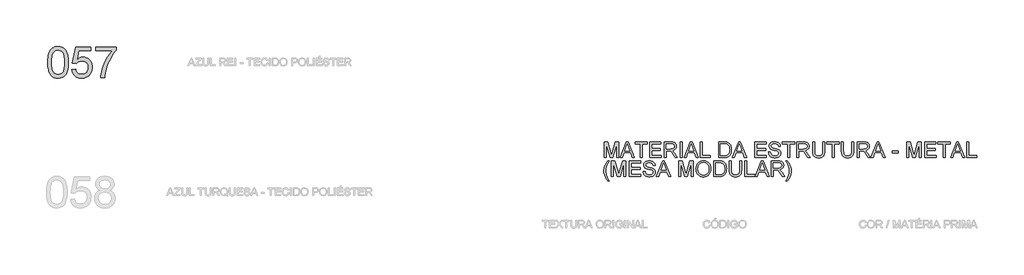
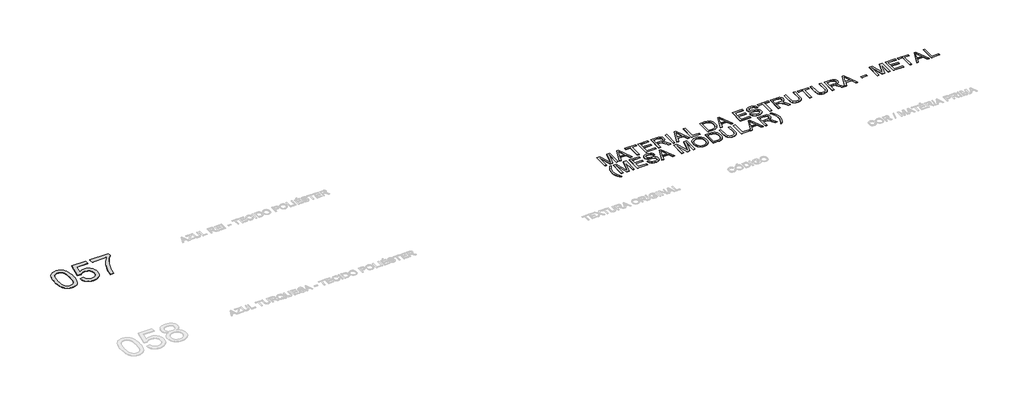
# One storey, part 48 of 67: 2 proxies.
"""IFC4 building model written with IfcOpenShell, lengths in millimetres."""

from ifc_helpers import new_model, si_unit, origin, origin_with_axes, place, context, project, spatial, polyline, outline, extrude, element, save

model = new_model("IFC4")

# Units and contexts
model_context = context("Model", 3, world=origin())
ifc_project = project(units=[si_unit("LENGTHUNIT", "METRE", prefix="MILLI")], contexts=[model_context])

# Site, building, storey
site = spatial("IfcSite", under=ifc_project)
building = spatial("IfcBuilding", under=site)
storey = spatial("IfcBuildingStorey", under=building, Name="Marelli - Linha COLAB - Planta Baixa", Elevation=0.0)

# Proxies
placement = place(None, origin())
element("IfcBuildingElementProxy", 1, Name="1200mm Arial", ObjectType="1200mm Arial", at=placement, inside=storey, context=model_context, shape_type="SweptSolid", body=[
    extrude(outline(polyline([(-134.0424838, -47395.792664), (-131.2741718, -47294.4319773), (-122.9692358, -47202.8385576), (-109.1276757, -47121.0124048), (-89.7494916, -47048.953519), (-64.9174569, -46986.073289), (-34.7143451, -46931.7831035), (0.8598438, -46886.0829627), (41.8051099, -46848.9728664), (88.2594088, -46820.2596767), (140.3606964, -46799.7502555), (198.1089726, -46787.4446027), (261.5042374, -46783.3427185), (309.1449558, -46785.7707396), (354.357653, -46793.0548031), (397.142329, -46805.194909), (437.4989839, -46822.1910572), (474.4527303, -46843.7581391), (507.028681, -46869.6110463), (535.2268359, -46899.7497788), (559.0471951, -46934.1743365), (579.685375, -46972.7467637), (598.3369922, -47015.3291046), (629.6805382, -47112.5235278), (641.6550971, -47169.6831928), (650.2083535, -47235.9479371), (655.3403073, -47311.3177609), (657.0509586, -47395.792664), (654.3102377, -47496.5095573), (646.0880752, -47587.6431245), (632.3844708, -47669.1933658), (613.1994248, -47741.1602811), (588.5605282, -47804.0681023), (558.4953721, -47858.4410612), (523.0039566, -47904.2791578), (482.0862817, -47941.5823921), (435.5768005, -47970.4887199), (383.309966, -47991.1360968), (325.2857783, -48003.524523), (261.5042374, -48007.6539984), (218.829926, -48005.8605737), (178.5100593, -48000.4802995), (140.5446374, -47991.5131759), (104.9336602, -47978.9592028), (71.6771279, -47962.8183803), (40.7750403, -47943.0907083), (12.2273975, -47919.7761868), (-13.9658006, -47892.8748159), (-42.1087732, -47850.2786794), (-66.4993495, -47802.0999336), (-87.1375294, -47748.3385785), (-104.023313, -47688.9946142), (-117.1567002, -47624.0680406), (-126.5376911, -47553.5588577), (-132.1662856, -47477.4670655), (-134.0424838, -47395.792664)]), holes=[polyline([(16.6419814, -47395.4983584), (21.0565653, -47526.4919399), (34.3003172, -47632.5247279), (44.233131, -47676.1808245), (56.3732369, -47713.5967226), (70.7206347, -47744.7724225), (87.2753245, -47769.7079239), (124.6521352, -47807.884878), (166.1492242, -47835.1541309), (211.7665916, -47851.5156826), (261.5042374, -47856.9695332), (311.2418831, -47851.4972885), (356.8592505, -47835.0805545), (398.3563396, -47807.7193311), (435.7331503, -47769.4136183), (452.2878401, -47744.418336), (466.6352379, -47713.2104465), (478.7753437, -47675.7899498), (488.7081576, -47632.1568459), (501.9519094, -47526.2528166), (506.3664934, -47395.4983584), (502.0990622, -47267.9720648), (489.2967688, -47163.8062779), (479.6950487, -47120.4835744), (467.9596131, -47083.0009976), (454.0904619, -47051.3585475), (438.0875951, -47025.5562241), (401.3361838, -46985.5122689), (359.3608481, -46956.9094438), (312.1615881, -46939.7477487), (259.7384038, -46934.0271837), (210.2582755, -46939.067167), (165.4134603, -46954.187117), (125.2039582, -46979.3870337), (89.6297692, -47014.666917), (72.5232565, -47043.2145599), (57.6976121, -47077.2068562), (45.152836, -47116.6438061), (34.8889284, -47161.5254095), (21.2037181, -47267.6225769), (16.6419814, -47395.4983584)])]), origin_with_axes(), (0.0, 0.0, 1.0), 10.0),
    extrude(outline(polyline([(788.8998657, -47668.6139517), (939.5843309, -47649.7783935), (950.84152, -47698.2192552), (967.2490569, -47740.2405761), (988.8069419, -47775.8423562), (1015.5151747, -47805.0245955), (1047.3185732, -47827.7505057), (1084.161955, -47843.9832988), (1126.0453202, -47853.7229746), (1172.9686686, -47856.9695332), (1230.3582599, -47852.4537817), (1280.9788224, -47838.9065272), (1324.8303563, -47816.3277698), (1361.9128614, -47784.7175093), (1391.3986033, -47745.6392444), (1412.4598475, -47700.6564734), (1425.096594, -47649.7691965), (1429.3088429, -47592.9774135), (1425.3633085, -47539.3034304), (1413.5267053, -47491.5891356), (1393.7990333, -47449.8345291), (1366.1802925, -47414.039611), (1330.5785124, -47385.3264213), (1286.9017225, -47364.817), (1235.1499229, -47352.5113473), (1175.3231134, -47348.4094631), (1137.0357948, -47350.0465379), (1102.224961, -47354.9577626), (1070.890612, -47363.143137), (1043.0327479, -47374.6026611), (995.7599116, -47404.6954083), (958.4198891, -47442.5872538), (807.7354238, -47423.7516957), (939.5843309, -46802.1782766), (1523.4866336, -46802.1782766), (1523.4866336, -46952.8627418), (1061.4268477, -46952.8627418), (996.9739222, -47284.8394543), (1050.1512646, -47246.7268796), (1104.6161939, -47219.503612), (1160.3687103, -47203.1696514), (1217.4088137, -47197.7249978), (1254.8477045, -47199.4126565), (1290.7920746, -47204.4756324), (1325.2419242, -47212.9139257), (1358.1972532, -47224.7275363), (1389.6580616, -47239.9164642), (1419.6243494, -47258.4807093), (1448.0961165, -47280.4202718), (1475.0733631, -47305.7351516), (1499.6639752, -47333.7033803), (1520.975839, -47363.6029895), (1539.0089546, -47395.4339791), (1553.7633219, -47429.1963492), (1565.2389408, -47464.8900998), (1573.4358115, -47502.5152308), (1578.353934, -47542.0717424), (1579.9933081, -47583.5596344), (1574.0888021, -47661.6241938), (1566.7081696, -47698.6147284), (1556.375284, -47734.2440996), (1543.0901455, -47768.5123075), (1526.8527539, -47801.4193519), (1507.6631093, -47832.965233), (1485.5212117, -47863.1499507), (1455.520435, -47897.0180869), (1422.9076962, -47926.3704716), (1387.6829951, -47951.2071048), (1349.8463319, -47971.5279865), (1309.3977066, -47987.3331167), (1266.337119, -47998.6224954), (1220.6645693, -48005.3961227), (1172.3800575, -48007.6539984), (1094.6190007, -48001.8506599), (1058.5596674, -47994.5964869), (1024.3811308, -47984.4406445), (992.0833909, -47971.383133), (961.6664477, -47955.4239522), (933.1303012, -47936.5631021), (906.4749513, -47914.8005828), (882.1372581, -47890.6422321), (860.5540813, -47864.5938875), (841.7254209, -47836.6555493), (825.651277, -47806.8272173), (812.3316495, -47775.1088915), (801.7665385, -47741.500572), (788.8998657, -47668.6139517)])), origin_with_axes(), (0.0, 0.0, 1.0), 10.0),
    extrude(outline(polyline([(1711.8422152, -46952.8627418), (1711.8422152, -46802.1782766), (2502.9356576, -46802.1782766), (2502.9356576, -46924.0207934), (2446.4197861, -46990.5246611), (2390.1798261, -47066.7222194), (2334.2157776, -47152.6134682), (2278.5276405, -47248.1984076), (2226.1320474, -47349.3383651), (2180.0456304, -47451.8946683), (2140.2683897, -47555.8673172), (2106.8003252, -47661.2563118), (2086.8611211, -47737.7941609), (2070.8950425, -47817.9004653), (2058.9020894, -47901.5752251), (2050.8822619, -47988.8184403), (1900.1977967, -47988.8184403), (1904.9342774, -47914.8189769), (1916.4949691, -47833.4986619), (1934.8798718, -47744.8574952), (1960.0889855, -47648.8954767), (1991.8280047, -47550.1651463), (2029.8026236, -47453.2190435), (2074.0128424, -47358.0571684), (2124.458661, -47264.679521), (2178.8684081, -47175.8268221), (2234.9704123, -47094.2397926), (2292.7646738, -47019.9184325), (2352.2511924, -46952.8627418), (1711.8422152, -46952.8627418)])), origin_with_axes(), (0.0, 0.0, 1.0), 10.0),
])
element("IfcBuildingElementProxy", 2, Name="600mm Arial", ObjectType="600mm Arial", at=placement, inside=storey, context=model_context, shape_type="SweptSolid", body=[
    extrude(outline(polyline([(21263.2366746, -51064.6418665), (21263.2366746, -50461.9040056), (21392.8782897, -50461.9040056), (21516.1923345, -50886.7341337), (21541.0611573, -50975.4672709), (21567.9901194, -50879.3764938), (21689.244025, -50461.9040056), (21818.8856401, -50461.9040056), (21818.8856401, -51064.6418665), (21743.5434075, -51064.6418665), (21743.5434075, -50537.2462382), (21592.1231783, -51064.6418665), (21489.9991364, -51064.6418665), (21338.5789072, -50537.2462382), (21338.5789072, -51064.6418665), (21263.2366746, -51064.6418665)])), origin_with_axes(), (0.0, 0.0, 1.0), 10.0),
    extrude(outline(polyline([(21880.5426625, -51064.6418665), (22121.1374873, -50461.9040056), (22185.2961073, -50461.9040056), (22425.8909321, -51064.6418665), (22346.2812684, -51064.6418665), (22277.2666061, -50876.286285), (22029.0198358, -50876.286285), (21960.1523263, -51064.6418665), (21880.5426625, -51064.6418665)]), holes=[polyline([(22056.6845618, -50800.9440524), (22249.7490329, -50800.9440524), (22195.4496504, -50652.7611847), (22153.2167973, -50537.2462382), (22115.6928338, -50639.8117385), (22056.6845618, -50800.9440524)])]), origin_with_axes(), (0.0, 0.0, 1.0), 10.0),
    extrude(outline(polyline([(22657.0679779, -51064.6418665), (22657.0679779, -50537.2462382), (22459.2946173, -50537.2462382), (22459.2946173, -50461.9040056), (22930.1835711, -50461.9040056), (22930.1835711, -50537.2462382), (22732.4102105, -50537.2462382), (22732.4102105, -51064.6418665), (22657.0679779, -51064.6418665)])), origin_with_axes(), (0.0, 0.0, 1.0), 10.0),
    extrude(outline(polyline([(23014.9435828, -51064.6418665), (23014.9435828, -50461.9040056), (23448.1614203, -50461.9040056), (23448.1614203, -50537.2462382), (23090.2858154, -50537.2462382), (23090.2858154, -50716.1840407), (23429.3258622, -50716.1840407), (23429.3258622, -50791.5262733), (23090.2858154, -50791.5262733), (23090.2858154, -50989.2996339), (23457.5791994, -50989.2996339), (23457.5791994, -51064.6418665), (23014.9435828, -51064.6418665)])), origin_with_axes(), (0.0, 0.0, 1.0), 10.0),
    extrude(outline(polyline([(23570.5925483, -51064.6418665), (23570.5925483, -50461.9040056), (23830.3172369, -50461.9040056), (23900.1228455, -50465.9691017), (23950.908955, -50478.1643898), (23970.5078682, -50487.8580804), (23988.0282483, -50500.6787679), (24003.470095, -50516.6264524), (24016.8334085, -50535.7011339), (24027.6169495, -50556.8773412), (24035.3194787, -50579.1296034), (24039.9409963, -50602.4579204), (24041.4815022, -50626.8622923), (24038.9293208, -50657.8195622), (24031.2727768, -50686.2384463), (24018.5118701, -50712.1189447), (24000.6466007, -50735.4610572), (23977.4470424, -50755.519823), (23948.6832689, -50771.550281), (23914.3552802, -50783.5524311), (23874.4630764, -50791.5262733), (23899.295111, -50807.7498693), (23917.2845406, -50823.7527361), (23948.14984, -50860.3569946), (23978.3529518, -50901.3022607), (24078.8583129, -51064.6418665), (23991.302398, -51064.6418665), (23912.8699567, -50939.709141), (23856.2161294, -50857.0092685), (23835.1548852, -50832.8946037), (23816.4112975, -50817.9402006), (23780.5795912, -50803.5928028), (23736.8752102, -50800.9440524), (23645.934781, -50800.9440524), (23645.934781, -51064.6418665), (23570.5925483, -51064.6418665)]), holes=[polyline([(23645.934781, -50725.6018198), (23814.5718875, -50725.6018198), (23863.0035522, -50722.9346753), (23900.582698, -50714.9332419), (23928.8728234, -50701.0640907), (23949.437427, -50680.7937928), (23961.9638089, -50656.2744578), (23966.1392696, -50629.6581954), (23964.1481083, -50610.3903759), (23958.1746244, -50592.9067841), (23948.2188179, -50577.20742), (23934.2806888, -50563.2922835), (23916.0383403, -50551.8971387), (23893.1698758, -50543.7577496), (23865.6752952, -50538.8741161), (23833.5545985, -50537.2462382), (23645.934781, -50537.2462382), (23645.934781, -50725.6018198)])]), origin_with_axes(), (0.0, 0.0, 1.0), 10.0),
    extrude(outline(polyline([(24182.7481883, -51064.6418665), (24182.7481883, -50461.9040056), (24258.0904209, -50461.9040056), (24258.0904209, -51064.6418665), (24182.7481883, -51064.6418665)])), origin_with_axes(), (0.0, 0.0, 1.0), 10.0),
    extrude(outline(polyline([(24338.5830015, -51064.6418665), (24579.1778263, -50461.9040056), (24643.3364463, -50461.9040056), (24883.9312711, -51064.6418665), (24804.3216074, -51064.6418665), (24735.3069451, -50876.286285), (24487.0601747, -50876.286285), (24418.1926652, -51064.6418665), (24338.5830015, -51064.6418665)]), holes=[polyline([(24514.7249008, -50800.9440524), (24707.7893718, -50800.9440524), (24653.4899893, -50652.7611847), (24611.2571363, -50537.2462382), (24573.7331728, -50639.8117385), (24514.7249008, -50800.9440524)])]), origin_with_axes(), (0.0, 0.0, 1.0), 10.0),
    extrude(outline(polyline([(24964.4238517, -51064.6418665), (24964.4238517, -50461.9040056), (25039.7660843, -50461.9040056), (25039.7660843, -50989.2996339), (25341.1350147, -50989.2996339), (25341.1350147, -51064.6418665), (24964.4238517, -51064.6418665)])), origin_with_axes(), (0.0, 0.0, 1.0), 10.0),
    extrude(outline(polyline([(25661.3395033, -51064.6418665), (25661.3395033, -50461.9040056), (25869.266407, -50461.9040056), (25931.401676, -50464.0745094), (25976.8351024, -50470.5860207), (26024.880491, -50487.3246515), (26065.4210868, -50513.7017906), (26087.760721, -50535.2596755), (26107.1021169, -50559.6134636), (26123.4452745, -50586.7631548), (26136.7901939, -50616.7087492), (26147.1552691, -50649.1743353), (26154.5588943, -50683.8840015), (26160.4817944, -50760.0355745), (26156.4718806, -50824.7276234), (26144.4421394, -50881.6573621), (26126.121616, -50930.125815), (26103.2393559, -50969.4340062), (26076.8990051, -51000.4648525), (26048.2042095, -51024.1012707), (26015.2603768, -51041.6308477), (25976.1729148, -51054.3411707), (25930.8682471, -51062.0666926), (25879.2727973, -51064.6418665), (25661.3395033, -51064.6418665)]), holes=[polyline([(25736.6817359, -50989.2996339), (25870.002171, -50989.2996339), (25925.1476821, -50986.5773072), (25966.9758649, -50978.4103269), (25998.5401401, -50965.2769396), (26022.8939282, -50947.6553921), (26049.0687321, -50915.0426532), (26068.7320248, -50872.8281942), (26081.0376775, -50820.8280742), (26085.1395618, -50758.8583521), (26083.1300064, -50715.1171829), (26077.1013402, -50676.7470908), (26067.0535632, -50643.7480759), (26052.9866754, -50616.120138), (26036.041111, -50593.2378779), (26017.3573042, -50574.4758962), (25996.9352549, -50559.8341928), (25974.7749632, -50549.3127677), (25931.4384642, -50540.2628706), (25867.9420318, -50537.2462382), (25736.6817359, -50537.2462382), (25736.6817359, -50989.2996339)])]), origin_with_axes(), (0.0, 0.0, 1.0), 10.0),
    extrude(outline(polyline([(26193.8854795, -51064.6418665), (26434.4803044, -50461.9040056), (26498.6389244, -50461.9040056), (26739.2337492, -51064.6418665), (26659.6240854, -51064.6418665), (26590.6094231, -50876.286285), (26342.3626528, -50876.286285), (26273.4951433, -51064.6418665), (26193.8854795, -51064.6418665)]), holes=[polyline([(26370.0273788, -50800.9440524), (26563.0918499, -50800.9440524), (26508.7924674, -50652.7611847), (26466.5596144, -50537.2462382), (26429.0356509, -50639.8117385), (26370.0273788, -50800.9440524)])]), origin_with_axes(), (0.0, 0.0, 1.0), 10.0),
    extrude(outline(polyline([(27055.1708067, -51064.6418665), (27055.1708067, -50461.9040056), (27488.3886442, -50461.9040056), (27488.3886442, -50537.2462382), (27130.5130393, -50537.2462382), (27130.5130393, -50716.1840407), (27469.553086, -50716.1840407), (27469.553086, -50791.5262733), (27130.5130393, -50791.5262733), (27130.5130393, -50989.2996339), (27497.8064233, -50989.2996339), (27497.8064233, -51064.6418665), (27055.1708067, -51064.6418665)])), origin_with_axes(), (0.0, 0.0, 1.0), 10.0),
    extrude(outline(polyline([(27582.5664349, -50857.4507268), (27657.9086676, -50857.4507268), (27666.5538944, -50899.2605156), (27682.1888792, -50932.8665359), (27706.5794555, -50959.5379805), (27741.4914569, -50980.5440424), (27784.1657683, -50994.1740704), (27831.8432749, -50998.717413), (27873.8186105, -50995.2777163), (27910.5700218, -50984.9586264), (27940.3500693, -50968.6246658), (27961.4113136, -50947.1403573), (27973.9376955, -50922.4738695), (27978.1131562, -50896.5933711), (27974.9861592, -50871.3750604), (27965.6051683, -50849.5780522), (27946.548881, -50830.9816173), (27914.3959946, -50815.3650266), (27804.6935836, -50786.5966546), (27732.6806831, -50767.5587613), (27686.6034632, -50749.4405731), (27649.0978938, -50724.0935036), (27622.5184196, -50693.375357), (27606.6810997, -50657.9483209), (27601.4019931, -50618.4745828), (27603.0344694, -50596.0383796), (27607.9318985, -50574.3471375), (27616.0942803, -50553.4008564), (27627.5216147, -50533.1995363), (27642.0851432, -50514.5663132), (27659.656107, -50498.3243232), (27680.2345061, -50484.473566), (27703.8203405, -50473.0140419), (27756.8321361, -50457.6181804), (27815.5093143, -50452.4862266), (27879.0793231, -50457.8573037), (27934.7030807, -50473.9705351), (27959.0384747, -50485.9726852), (27980.3940245, -50500.4948269), (27998.7697302, -50517.5369604), (28014.1655917, -50537.0990854), (28026.4620474, -50558.6109851), (28035.5395356, -50581.5024423), (28041.3980564, -50605.7734569), (28044.0376097, -50631.424029), (27968.6953771, -50631.424029), (27963.6553937, -50607.3829406), (27954.8630141, -50586.4688492), (27942.318238, -50568.6817547), (27926.0210656, -50554.0216572), (27905.6679943, -50542.5621331), (27880.9555212, -50534.3767587), (27851.8836466, -50529.465534), (27818.4523702, -50527.8284592), (27783.9542361, -50529.4471399), (27754.4776913, -50534.3031823), (27730.0227357, -50542.3965862), (27710.5893693, -50553.7273516), (27695.782119, -50567.3481825), (27685.2055116, -50582.3117827), (27678.8595472, -50598.6181521), (27676.7442257, -50616.2672908), (27678.2433448, -50631.4516202), (27682.7407022, -50645.2196038), (27690.2362979, -50657.5712418), (27700.7301318, -50668.5065341), (27717.2480334, -50678.8624123), (27743.2572904, -50689.3286551), (27823.749871, -50710.5922344), (27906.8176255, -50730.7889559), (27957.070306, -50748.4105035), (28000.020529, -50775.7441357), (28016.6258025, -50791.8113819), (28029.9845175, -50809.4789147), (28040.2530237, -50828.6547637), (28047.5876709, -50849.2469584), (28053.4553888, -50894.6803848), (28051.7677301, -50918.2478251), (28046.7047542, -50941.1254867), (28038.2664609, -50963.3133695), (28026.4528503, -50984.8114736), (28011.4708561, -51004.7874659), (27993.5274118, -51022.4090135), (27972.6225174, -51037.6761163), (27948.7561729, -51050.5887743), (27922.6227557, -51060.8572805), (27894.9166429, -51068.1919278), (27834.7863308, -51074.0596456), (27796.2460933, -51072.477753), (27760.9708085, -51067.7320753), (27728.9604764, -51059.8226124), (27700.215097, -51048.7493643), (27674.5599264, -51034.493937), (27651.8202205, -51017.0379364), (27631.9959795, -50996.3813623), (27615.0872033, -50972.5242149), (27601.4663724, -50946.2390464), (27591.5059674, -50918.2984089), (27585.2059883, -50888.7023023), (27582.5664349, -50857.4507268)])), origin_with_axes(), (0.0, 0.0, 1.0), 10.0),
    extrude(outline(polyline([(28317.1532029, -51064.6418665), (28317.1532029, -50537.2462382), (28119.3798423, -50537.2462382), (28119.3798423, -50461.9040056), (28590.2687961, -50461.9040056), (28590.2687961, -50537.2462382), (28392.4954355, -50537.2462382), (28392.4954355, -51064.6418665), (28317.1532029, -51064.6418665)])), origin_with_axes(), (0.0, 0.0, 1.0), 10.0),
    extrude(outline(polyline([(28675.0288078, -51064.6418665), (28675.0288078, -50461.9040056), (28934.7534964, -50461.9040056), (29004.559105, -50465.9691017), (29055.3452144, -50478.1643898), (29074.9441277, -50487.8580804), (29092.4645077, -50500.6787679), (29107.9063545, -50516.6264524), (29121.269668, -50535.7011339), (29132.0532089, -50556.8773412), (29139.7557382, -50579.1296034), (29144.3772558, -50602.4579204), (29145.9177616, -50626.8622923), (29143.3655803, -50657.8195622), (29135.7090363, -50686.2384463), (29122.9481296, -50712.1189447), (29105.0828602, -50735.4610572), (29081.8833019, -50755.519823), (29053.1195284, -50771.550281), (29018.7915397, -50783.5524311), (28978.8993358, -50791.5262733), (29003.7313705, -50807.7498693), (29021.7208001, -50823.7527361), (29052.5860995, -50860.3569946), (29082.7892113, -50901.3022607), (29183.2945724, -51064.6418665), (29095.7386575, -51064.6418665), (29017.3062161, -50939.709141), (28960.6523889, -50857.0092685), (28939.5911446, -50832.8946037), (28920.847557, -50817.9402006), (28885.0158507, -50803.5928028), (28841.3114696, -50800.9440524), (28750.3710404, -50800.9440524), (28750.3710404, -51064.6418665), (28675.0288078, -51064.6418665)]), holes=[polyline([(28750.3710404, -50725.6018198), (28919.008147, -50725.6018198), (28967.4398117, -50722.9346753), (29005.0189575, -50714.9332419), (29033.3090829, -50701.0640907), (29053.8736864, -50680.7937928), (29066.4000684, -50656.2744578), (29070.575529, -50629.6581954), (29068.5843677, -50610.3903759), (29062.6108838, -50592.9067841), (29052.6550773, -50577.20742), (29038.7169482, -50563.2922835), (29020.4745998, -50551.8971387), (28997.6061353, -50543.7577496), (28970.1115547, -50538.8741161), (28937.990858, -50537.2462382), (28750.3710404, -50537.2462382), (28750.3710404, -50725.6018198)])]), origin_with_axes(), (0.0, 0.0, 1.0), 10.0),
    extrude(outline(polyline([(29673.3133899, -50461.9040056), (29748.6556225, -50461.9040056), (29748.6556225, -50809.6260675), (29743.5420628, -50891.0567471), (29737.1501131, -50924.7501393), (29728.2013836, -50953.7622332), (29715.923322, -50979.1920761), (29699.5433762, -51002.1387156), (29679.0615461, -51022.6021515), (29654.4778318, -51040.582384), (29625.7646421, -51055.228686), (29592.8943858, -51065.6903302), (29555.867063, -51071.9673168), (29514.6826736, -51074.0596456), (29474.5145583, -51072.2386297), (29438.1816127, -51066.7755821), (29405.683837, -51057.6705027), (29377.021231, -51044.9233916), (29352.1891963, -51028.7227882), (29331.1831344, -51009.2572322), (29314.0030452, -50986.5267234), (29300.6489288, -50960.5312619), (29290.63794, -50930.3787339), (29283.4872337, -50895.1770255), (29279.19681, -50854.9261367), (29277.7666687, -50809.6260675), (29277.7666687, -50461.9040056), (29353.1089013, -50461.9040056), (29353.1089013, -50806.9773171), (29356.8245095, -50874.6859983), (29367.9713339, -50921.830076), (29376.7361225, -50939.2079018), (29388.1680555, -50954.4796031), (29402.2671329, -50967.64518), (29419.0333549, -50978.7046325), (29459.2796451, -50993.7142179), (29507.6193393, -50998.717413), (29549.1440195, -50996.2434066), (29584.2491589, -50988.8213873), (29612.9347575, -50976.4513552), (29635.2008152, -50959.1333103), (29651.8750667, -50934.7795222), (29663.7852463, -50901.3022607), (29670.931354, -50858.7015256), (29673.3133899, -50806.9773171), (29673.3133899, -50461.9040056)])), origin_with_axes(), (0.0, 0.0, 1.0), 10.0),
    extrude(outline(polyline([(30031.1889948, -51064.6418665), (30031.1889948, -50537.2462382), (29833.4156342, -50537.2462382), (29833.4156342, -50461.9040056), (30304.3045881, -50461.9040056), (30304.3045881, -50537.2462382), (30106.5312274, -50537.2462382), (30106.5312274, -51064.6418665), (30031.1889948, -51064.6418665)])), origin_with_axes(), (0.0, 0.0, 1.0), 10.0),
    extrude(outline(polyline([(30784.611321, -50461.9040056), (30859.9535536, -50461.9040056), (30859.9535536, -50809.6260675), (30854.8399938, -50891.0567471), (30848.4480442, -50924.7501393), (30839.4993146, -50953.7622332), (30827.221253, -50979.1920761), (30810.8413072, -51002.1387156), (30790.3594771, -51022.6021515), (30765.7757628, -51040.582384), (30737.0625731, -51055.228686), (30704.1923168, -51065.6903302), (30667.164994, -51071.9673168), (30625.9806046, -51074.0596456), (30585.8124893, -51072.2386297), (30549.4795437, -51066.7755821), (30516.981768, -51057.6705027), (30488.319162, -51044.9233916), (30463.4871274, -51028.7227882), (30442.4810654, -51009.2572322), (30425.3009763, -50986.5267234), (30411.9468598, -50960.5312619), (30401.935871, -50930.3787339), (30394.7851648, -50895.1770255), (30390.494741, -50854.9261367), (30389.0645997, -50809.6260675), (30389.0645997, -50461.9040056), (30464.4068324, -50461.9040056), (30464.4068324, -50806.9773171), (30468.1224405, -50874.6859983), (30479.269265, -50921.830076), (30488.0340535, -50939.2079018), (30499.4659865, -50954.4796031), (30513.565064, -50967.64518), (30530.3312859, -50978.7046325), (30570.5775762, -50993.7142179), (30618.9172703, -50998.717413), (30660.4419505, -50996.2434066), (30695.5470899, -50988.8213873), (30724.2326885, -50976.4513552), (30746.4987463, -50959.1333103), (30763.1729977, -50934.7795222), (30775.0831773, -50901.3022607), (30782.229285, -50858.7015256), (30784.611321, -50806.9773171), (30784.611321, -50461.9040056)])), origin_with_axes(), (0.0, 0.0, 1.0), 10.0),
    extrude(outline(polyline([(30991.8024606, -51064.6418665), (30991.8024606, -50461.9040056), (31251.5271492, -50461.9040056), (31321.3327578, -50465.9691017), (31372.1188673, -50478.1643898), (31391.7177805, -50487.8580804), (31409.2381606, -50500.6787679), (31424.6800073, -50516.6264524), (31438.0433208, -50535.7011339), (31448.8268618, -50556.8773412), (31456.529391, -50579.1296034), (31461.1509086, -50602.4579204), (31462.6914145, -50626.8622923), (31460.1392331, -50657.8195622), (31452.4826891, -50686.2384463), (31439.7217824, -50712.1189447), (31421.856513, -50735.4610572), (31398.6569547, -50755.519823), (31369.8931812, -50771.550281), (31335.5651925, -50783.5524311), (31295.6729887, -50791.5262733), (31320.5050233, -50807.7498693), (31338.4944529, -50823.7527361), (31369.3597523, -50860.3569946), (31399.5628641, -50901.3022607), (31500.0682252, -51064.6418665), (31412.5123103, -51064.6418665), (31334.079869, -50939.709141), (31277.4260417, -50857.0092685), (31256.3647975, -50832.8946037), (31237.6212098, -50817.9402006), (31201.7895035, -50803.5928028), (31158.0851225, -50800.9440524), (31067.1446933, -50800.9440524), (31067.1446933, -51064.6418665), (30991.8024606, -51064.6418665)]), holes=[polyline([(31067.1446933, -50725.6018198), (31235.7817998, -50725.6018198), (31284.2134645, -50722.9346753), (31321.7926103, -50714.9332419), (31350.0827357, -50701.0640907), (31370.6473393, -50680.7937928), (31383.1737212, -50656.2744578), (31387.3491819, -50629.6581954), (31385.3580206, -50610.3903759), (31379.3845367, -50592.9067841), (31369.4287302, -50577.20742), (31355.4906011, -50563.2922835), (31337.2482526, -50551.8971387), (31314.3797881, -50543.7577496), (31286.8852075, -50538.8741161), (31254.7645108, -50537.2462382), (31067.1446933, -50537.2462382), (31067.1446933, -50725.6018198)])]), origin_with_axes(), (0.0, 0.0, 1.0), 10.0),
    extrude(outline(polyline([(31524.3484369, -51064.6418665), (31764.9432617, -50461.9040056), (31829.1018817, -50461.9040056), (32069.6967065, -51064.6418665), (31990.0870428, -51064.6418665), (31921.0723805, -50876.286285), (31672.8256101, -50876.286285), (31603.9581006, -51064.6418665), (31524.3484369, -51064.6418665)]), holes=[polyline([(31700.4903361, -50800.9440524), (31893.5548072, -50800.9440524), (31839.2554247, -50652.7611847), (31797.0225717, -50537.2462382), (31759.4986082, -50639.8117385), (31700.4903361, -50800.9440524)])]), origin_with_axes(), (0.0, 0.0, 1.0), 10.0),
    extrude(outline(polyline([(32338.5448686, -50885.7040641), (32338.5448686, -50810.3618315), (32573.9893455, -50810.3618315), (32573.9893455, -50885.7040641), (32338.5448686, -50885.7040641)])), origin_with_axes(), (0.0, 0.0, 1.0), 10.0),
    extrude(outline(polyline([(32903.6116132, -51064.6418665), (32903.6116132, -50461.9040056), (33033.2532283, -50461.9040056), (33156.5672731, -50886.7341337), (33181.4360959, -50975.4672709), (33208.365058, -50879.3764938), (33329.6189636, -50461.9040056), (33459.2605787, -50461.9040056), (33459.2605787, -51064.6418665), (33383.9183461, -51064.6418665), (33383.9183461, -50537.2462382), (33232.4981169, -51064.6418665), (33130.374075, -51064.6418665), (32978.9538458, -50537.2462382), (32978.9538458, -51064.6418665), (32903.6116132, -51064.6418665)])), origin_with_axes(), (0.0, 0.0, 1.0), 10.0),
    extrude(outline(polyline([(33591.1094858, -51064.6418665), (33591.1094858, -50461.9040056), (34024.3273233, -50461.9040056), (34024.3273233, -50537.2462382), (33666.4517184, -50537.2462382), (33666.4517184, -50716.1840407), (34005.4917651, -50716.1840407), (34005.4917651, -50791.5262733), (33666.4517184, -50791.5262733), (33666.4517184, -50989.2996339), (34033.7451024, -50989.2996339), (34033.7451024, -51064.6418665), (33591.1094858, -51064.6418665)])), origin_with_axes(), (0.0, 0.0, 1.0), 10.0),
    extrude(outline(polyline([(34297.4429165, -51064.6418665), (34297.4429165, -50537.2462382), (34099.6695559, -50537.2462382), (34099.6695559, -50461.9040056), (34570.5585097, -50461.9040056), (34570.5585097, -50537.2462382), (34372.7851491, -50537.2462382), (34372.7851491, -51064.6418665), (34297.4429165, -51064.6418665)])), origin_with_axes(), (0.0, 0.0, 1.0), 10.0),
    extrude(outline(polyline([(34585.1266367, -51064.6418665), (34825.7214616, -50461.9040056), (34889.8800815, -50461.9040056), (35130.4749064, -51064.6418665), (35050.8652426, -51064.6418665), (34981.8505803, -50876.286285), (34733.60381, -50876.286285), (34664.7363005, -51064.6418665), (34585.1266367, -51064.6418665)]), holes=[polyline([(34761.268536, -50800.9440524), (34954.3330071, -50800.9440524), (34900.0336246, -50652.7611847), (34857.8007716, -50537.2462382), (34820.276808, -50639.8117385), (34761.268536, -50800.9440524)])]), origin_with_axes(), (0.0, 0.0, 1.0), 10.0),
    extrude(outline(polyline([(35210.9674869, -51064.6418665), (35210.9674869, -50461.9040056), (35286.3097195, -50461.9040056), (35286.3097195, -50989.2996339), (35587.67865, -50989.2996339), (35587.67865, -51064.6418665), (35210.9674869, -51064.6418665)])), origin_with_axes(), (0.0, 0.0, 1.0), 10.0),
    extrude(outline(polyline([(21404.5033607, -51966.010797), (21374.0887168, -51926.6566205), (21346.1204881, -51884.0834767), (21320.5986747, -51838.2913653), (21297.5232765, -51789.2802865), (21278.4026098, -51738.1998715), (21264.7449908, -51686.1997514), (21256.5504193, -51633.2799264), (21253.8188955, -51579.4403964), (21255.8606406, -51532.1215748), (21261.9858758, -51485.8144287), (21272.1946012, -51440.518958), (21286.4868167, -51396.2351629), (21308.2102485, -51345.4490534), (21335.1208164, -51294.7733086), (21367.2185205, -51244.2079283), (21404.5033607, -51193.7529127), (21461.0100352, -51193.7529127), (21416.6802548, -51265.3795372), (21390.5238449, -51313.0938319), (21366.4643624, -51369.7476592), (21348.1438391, -51428.7559312), (21333.9068059, -51504.134952), (21329.1611281, -51579.8818548), (21331.2212673, -51628.1801623), (21337.4016848, -51676.4692727), (21347.7023807, -51724.749186), (21362.1233549, -51773.0199023), (21380.6646075, -51821.2814216), (21403.3261384, -51869.5337437), (21430.1079476, -51917.7768689), (21461.0100352, -51966.010797), (21404.5033607, -51966.010797)])), origin_with_axes(), (0.0, 0.0, 1.0), 10.0),
    extrude(outline(polyline([(21545.7700469, -51796.4907736), (21545.7700469, -51193.7529127), (21675.411662, -51193.7529127), (21798.7257068, -51618.5830407), (21823.5945296, -51707.316178), (21850.5234917, -51611.2254008), (21971.7773973, -51193.7529127), (22101.4190124, -51193.7529127), (22101.4190124, -51796.4907736), (22026.0767798, -51796.4907736), (22026.0767798, -51269.0951453), (21874.6565506, -51796.4907736), (21772.5325087, -51796.4907736), (21621.1122795, -51269.0951453), (21621.1122795, -51796.4907736), (21545.7700469, -51796.4907736)])), origin_with_axes(), (0.0, 0.0, 1.0), 10.0),
    extrude(outline(polyline([(22233.2679195, -51796.4907736), (22233.2679195, -51193.7529127), (22666.485757, -51193.7529127), (22666.485757, -51269.0951453), (22308.6101521, -51269.0951453), (22308.6101521, -51448.0329478), (22647.6501988, -51448.0329478), (22647.6501988, -51523.3751804), (22308.6101521, -51523.3751804), (22308.6101521, -51721.148541), (22675.9035361, -51721.148541), (22675.9035361, -51796.4907736), (22233.2679195, -51796.4907736)])), origin_with_axes(), (0.0, 0.0, 1.0), 10.0),
    extrude(outline(polyline([(22760.6635478, -51589.2996339), (22836.0057804, -51589.2996339), (22844.6510073, -51631.1094227), (22860.2859921, -51664.7154429), (22884.6765683, -51691.3868876), (22919.5885697, -51712.3929495), (22962.2628811, -51726.0229774), (23009.9403877, -51730.5663201), (23051.9157233, -51727.1266234), (23088.6671347, -51716.8075334), (23118.4471822, -51700.4735729), (23139.5084264, -51678.9892643), (23152.0348083, -51654.3227766), (23156.210269, -51628.4422782), (23153.083272, -51603.2239674), (23143.7022811, -51581.4269592), (23124.6459938, -51562.8305244), (23092.4931074, -51547.2139337), (22982.7906964, -51518.4455616), (22910.7777959, -51499.4076684), (22864.700576, -51481.2894801), (22827.1950066, -51455.9424107), (22800.6155324, -51425.2242641), (22784.7782125, -51389.7972279), (22779.4991059, -51350.3234899), (22781.1315823, -51327.8872867), (22786.0290113, -51306.1960445), (22794.1913931, -51285.2497634), (22805.6187276, -51265.0484434), (22820.1822561, -51246.4152203), (22837.7532198, -51230.1732302), (22858.331619, -51216.3224731), (22881.9174534, -51204.862949), (22934.9292489, -51189.4670875), (22993.6064271, -51184.3351336), (23057.1764359, -51189.7062108), (23112.8001935, -51205.8194421), (23137.1355875, -51217.8215922), (23158.4911373, -51232.343734), (23176.866843, -51249.3858674), (23192.2627045, -51268.9479925), (23204.5591602, -51290.4598922), (23213.6366484, -51313.3513493), (23219.4951692, -51337.622364), (23222.1347225, -51363.2729361), (23146.7924899, -51363.2729361), (23141.7525066, -51339.2318477), (23132.9601269, -51318.3177563), (23120.4153508, -51300.5306618), (23104.1181785, -51285.8705643), (23083.7651071, -51274.4110401), (23059.052634, -51266.2256658), (23029.9807594, -51261.3144411), (22996.5494831, -51259.6773662), (22962.051349, -51261.296047), (22932.5748041, -51266.1520894), (22908.1198485, -51274.2454933), (22888.6864821, -51285.5762587), (22873.8792318, -51299.1970896), (22863.3026244, -51314.1606897), (22856.95666, -51330.4670592), (22854.8413385, -51348.1161979), (22856.3404577, -51363.3005272), (22860.837815, -51377.0685109), (22868.3334107, -51389.4201489), (22878.8272446, -51400.3554412), (22895.3451462, -51410.7113194), (22921.3544033, -51421.1775621), (23001.8469838, -51442.4411414), (23084.9147383, -51462.637863), (23135.1674188, -51480.2594106), (23178.1176418, -51507.5930428), (23194.7229153, -51523.6602889), (23208.0816303, -51541.3278217), (23218.3501365, -51560.5036707), (23225.6847838, -51581.0958654), (23231.5525016, -51626.5292918), (23229.8648429, -51650.0967321), (23224.801867, -51672.9743937), (23216.3635737, -51695.1622766), (23204.5499631, -51716.6603807), (23189.5679689, -51736.636373), (23171.6245246, -51754.2579206), (23150.7196302, -51769.5250234), (23126.8532858, -51782.4376814), (23100.7198685, -51792.7061876), (23073.0137558, -51800.0408349), (23012.8834437, -51805.9085527), (22974.3432061, -51804.3266601), (22939.0679213, -51799.5809824), (22907.0575892, -51791.6715195), (22878.3122098, -51780.5982714), (22852.6570392, -51766.3428441), (22829.9173333, -51748.8868434), (22810.0930923, -51728.2302694), (22793.1843161, -51704.373122), (22779.5634853, -51678.0879535), (22769.6030802, -51650.1473159), (22763.3031011, -51620.5512094), (22760.6635478, -51589.2996339)])), origin_with_axes(), (0.0, 0.0, 1.0), 10.0),
    extrude(outline(polyline([(23274.3739658, -51796.4907736), (23514.9687907, -51193.7529127), (23579.1274106, -51193.7529127), (23819.7222355, -51796.4907736), (23740.1125717, -51796.4907736), (23671.0979094, -51608.1351921), (23422.8511391, -51608.1351921), (23353.9836296, -51796.4907736), (23274.3739658, -51796.4907736)]), holes=[polyline([(23450.5158651, -51532.7929595), (23643.5803362, -51532.7929595), (23589.2809537, -51384.6100918), (23547.0481006, -51269.0951453), (23509.5241371, -51371.6606456), (23450.5158651, -51532.7929595)])]), origin_with_axes(), (0.0, 0.0, 1.0), 10.0),
    extrude(outline(polyline([(24135.6592929, -51796.4907736), (24135.6592929, -51193.7529127), (24265.300908, -51193.7529127), (24388.6149528, -51618.5830407), (24413.4837757, -51707.316178), (24440.4127377, -51611.2254008), (24561.6666433, -51193.7529127), (24691.3082584, -51193.7529127), (24691.3082584, -51796.4907736), (24615.9660258, -51796.4907736), (24615.9660258, -51269.0951453), (24464.5457966, -51796.4907736), (24362.4217548, -51796.4907736), (24211.0015255, -51269.0951453), (24211.0015255, -51796.4907736), (24135.6592929, -51796.4907736)])), origin_with_axes(), (0.0, 0.0, 1.0), 10.0),
    extrude(outline(polyline([(24794.9038283, -51503.0680943), (24799.9254175, -51432.3703718), (24814.9901852, -51369.7844474), (24840.0981314, -51315.310321), (24856.4182964, -51291.115182), (24875.249256, -51268.9479925), (24918.3374347, -51231.9298668), (24967.256543, -51205.4883484), (25022.006581, -51189.6234373), (25082.5875485, -51184.3351336), (25123.1373414, -51186.8183371), (25161.6453893, -51194.2679475), (25198.1116921, -51206.6839648), (25232.5362497, -51224.0663891), (25263.9533721, -51245.8909885), (25291.397369, -51271.6335311), (25314.8682403, -51301.2940169), (25334.365986, -51334.8724461), (25349.6882711, -51371.6054633), (25360.6327605, -51410.7297135), (25367.1994541, -51452.2451966), (25369.388352, -51496.1519127), (25367.084491, -51540.638043), (25360.172908, -51582.7145462), (25348.653603, -51622.3814223), (25332.526576, -51659.6386714), (25312.1735047, -51693.5022091), (25287.9760664, -51722.987951), (25259.9342613, -51748.0958971), (25228.0480894, -51768.8260476), (25193.5729479, -51785.0496436), (25157.7642342, -51796.6379264), (25120.6219483, -51803.5908961), (25082.1460901, -51805.9085527), (25040.8881244, -51803.3471743), (25001.8742388, -51795.6630391), (24965.1044334, -51782.8561472), (24930.5787081, -51764.9264984), (24899.1983739, -51742.5684702), (24871.8647417, -51716.4764397), (24848.5778114, -51686.6504069), (24829.337583, -51653.0903719), (24814.2728153, -51617.1437024), (24803.512267, -51580.1577663), (24797.055938, -51542.1325636), (24794.9038283, -51503.0680943)]), holes=[polyline([(24870.2460609, -51503.8038582), (24874.0122528, -51553.7530361), (24885.3108286, -51598.0920136), (24904.1417882, -51636.8207906), (24930.5051317, -51669.9393673), (24962.552252, -51696.4636591), (24998.4345421, -51715.4095819), (25038.152002, -51726.7771355), (25081.7046317, -51730.5663201), (25126.0022225, -51726.7403473), (25166.1887319, -51715.2624291), (25202.2641601, -51696.1325653), (25234.2285069, -51669.3507561), (25260.3987124, -51635.5332037), (25279.0917162, -51595.2961104), (25290.3075186, -51548.6394764), (25294.0461193, -51495.5633015), (25292.4458327, -51461.0835616), (25287.6449726, -51428.8662958), (25279.6435392, -51398.9115044), (25268.4415325, -51371.2191872), (25254.1631125, -51346.1526277), (25236.9324396, -51324.0751095), (25216.7495136, -51304.9866325), (25193.6143347, -51288.8871967), (25168.2442726, -51276.1078959), (25141.3566972, -51266.9798238), (25112.9516087, -51261.5029806), (25083.0290069, -51259.6773662), (25040.9892919, -51263.1952378), (25001.9846034, -51273.7488526), (24966.0149413, -51291.3382105), (24933.0803057, -51315.9633115), (24905.5903236, -51348.8105751), (24885.9546221, -51391.0664208), (24874.1732012, -51442.7308485), (24870.2460609, -51503.8038582)])]), origin_with_axes(), (0.0, 0.0, 1.0), 10.0),
    extrude(outline(polyline([(25472.9839218, -51796.4907736), (25472.9839218, -51193.7529127), (25680.9108255, -51193.7529127), (25743.0460945, -51195.9234165), (25788.4795209, -51202.4349278), (25836.5249094, -51219.1735586), (25877.0655053, -51245.5506976), (25899.4051395, -51267.1085825), (25918.7465354, -51291.4623706), (25935.089693, -51318.6120619), (25948.4346124, -51348.5576563), (25958.7996876, -51381.0232424), (25966.2033127, -51415.7329086), (25972.1262129, -51491.8844816), (25968.1162991, -51556.5765304), (25956.0865579, -51613.5062692), (25937.7660345, -51661.9747221), (25914.8837744, -51701.2829133), (25888.5434235, -51732.3137595), (25859.8486279, -51755.9501777), (25826.9047953, -51773.4797548), (25787.8173333, -51786.1900777), (25742.5126656, -51793.9155996), (25690.9172157, -51796.4907736), (25472.9839218, -51796.4907736)]), holes=[polyline([(25548.3261544, -51721.148541), (25681.6465895, -51721.148541), (25736.7921005, -51718.4262142), (25778.6202834, -51710.2592339), (25810.1845586, -51697.1258467), (25834.5383467, -51679.5042991), (25860.7131506, -51646.8915603), (25880.3764433, -51604.6771013), (25892.682096, -51552.6769813), (25896.7839802, -51490.7072592), (25894.7744248, -51446.96609), (25888.7457586, -51408.5959979), (25878.6979817, -51375.5969829), (25864.6310939, -51347.9690451), (25847.6855295, -51325.086785), (25829.0017226, -51306.3248032), (25808.5796734, -51291.6830998), (25786.4193817, -51281.1616748), (25743.0828827, -51272.1117777), (25679.5864503, -51269.0951453), (25548.3261544, -51269.0951453), (25548.3261544, -51721.148541)])]), origin_with_axes(), (0.0, 0.0, 1.0), 10.0),
    extrude(outline(polyline([(26471.2685039, -51193.7529127), (26546.6107365, -51193.7529127), (26546.6107365, -51541.4749745), (26541.4971768, -51622.9056542), (26535.1052271, -51656.5990464), (26526.1564976, -51685.6111403), (26513.878436, -51711.0409832), (26497.4984902, -51733.9876226), (26477.0166601, -51754.4510586), (26452.4329458, -51772.4312911), (26423.719756, -51787.0775931), (26390.8494998, -51797.5392373), (26353.8221769, -51803.8162238), (26312.6377876, -51805.9085527), (26272.4696722, -51804.0875368), (26236.1367267, -51798.6244892), (26203.6389509, -51789.5194098), (26174.976345, -51776.7722987), (26150.1443103, -51760.5716953), (26129.1382484, -51741.1061392), (26111.9581592, -51718.3756305), (26098.6040428, -51692.380169), (26088.593054, -51662.2276409), (26081.4423477, -51627.0259325), (26077.151924, -51586.7750437), (26075.7217827, -51541.4749745), (26075.7217827, -51193.7529127), (26151.0640153, -51193.7529127), (26151.0640153, -51538.8262242), (26154.7796235, -51606.5349054), (26165.9264479, -51653.6789831), (26174.6912364, -51671.0568088), (26186.1231694, -51686.3285101), (26200.2222469, -51699.4940871), (26216.9884688, -51710.5535395), (26257.2347591, -51725.5631249), (26305.5744533, -51730.5663201), (26347.0991335, -51728.0923137), (26382.2042729, -51720.6702944), (26410.8898715, -51708.3002623), (26433.1559292, -51690.9822174), (26449.8301806, -51666.6284293), (26461.7403602, -51633.1511677), (26468.886468, -51590.5504327), (26471.2685039, -51538.8262242), (26471.2685039, -51193.7529127)])), origin_with_axes(), (0.0, 0.0, 1.0), 10.0),
    extrude(outline(polyline([(26678.4596436, -51796.4907736), (26678.4596436, -51193.7529127), (26753.8018762, -51193.7529127), (26753.8018762, -51721.148541), (27055.1708067, -51721.148541), (27055.1708067, -51796.4907736), (26678.4596436, -51796.4907736)])), origin_with_axes(), (0.0, 0.0, 1.0), 10.0),
    extrude(outline(polyline([(27069.7389337, -51796.4907736), (27310.3337585, -51193.7529127), (27374.4923785, -51193.7529127), (27615.0872033, -51796.4907736), (27535.4775396, -51796.4907736), (27466.4628773, -51608.1351921), (27218.2161069, -51608.1351921), (27149.3485974, -51796.4907736), (27069.7389337, -51796.4907736)]), holes=[polyline([(27245.880833, -51532.7929595), (27438.945304, -51532.7929595), (27384.6459215, -51384.6100918), (27342.4130685, -51269.0951453), (27304.889105, -51371.6606456), (27245.880833, -51532.7929595)])]), origin_with_axes(), (0.0, 0.0, 1.0), 10.0),
    extrude(outline(polyline([(27695.5797839, -51796.4907736), (27695.5797839, -51193.7529127), (27955.3044725, -51193.7529127), (28025.110081, -51197.8180088), (28075.8961905, -51210.0132969), (28095.4951038, -51219.7069875), (28113.0154838, -51232.527675), (28128.4573305, -51248.4753595), (28141.820644, -51267.5500409), (28152.604185, -51288.7262483), (28160.3067143, -51310.9785105), (28164.9282318, -51334.3068275), (28166.4687377, -51358.7111993), (28163.9165563, -51389.6684692), (28156.2600123, -51418.0873534), (28143.4991056, -51443.9678517), (28125.6338362, -51467.3099643), (28102.4342779, -51487.3687301), (28073.6705044, -51503.399188), (28039.3425157, -51515.4013381), (27999.4503119, -51523.3751804), (28024.2823465, -51539.5987764), (28042.2717761, -51555.6016432), (28073.1370755, -51592.2059017), (28103.3401873, -51633.1511677), (28203.8455484, -51796.4907736), (28116.2896335, -51796.4907736), (28037.8571922, -51671.558048), (27981.2033649, -51588.8581755), (27960.1421207, -51564.7435107), (27941.398533, -51549.7891076), (27905.5668267, -51535.4417098), (27861.8624457, -51532.7929595), (27770.9220165, -51532.7929595), (27770.9220165, -51796.4907736), (27695.5797839, -51796.4907736)]), holes=[polyline([(27770.9220165, -51457.4507268), (27939.5591231, -51457.4507268), (27987.9907877, -51454.7835824), (28025.5699335, -51446.782149), (28053.860059, -51432.9129978), (28074.4246625, -51412.6426998), (28086.9510444, -51388.1233649), (28091.1265051, -51361.5071025), (28089.1353438, -51342.239283), (28083.1618599, -51324.7556912), (28073.2060534, -51309.056327), (28059.2679243, -51295.1411906), (28041.0255759, -51283.7460458), (28018.1571113, -51275.6066566), (27990.6625307, -51270.7230231), (27958.541834, -51269.0951453), (27770.9220165, -51269.0951453), (27770.9220165, -51457.4507268)])]), origin_with_axes(), (0.0, 0.0, 1.0), 10.0),
    extrude(outline(polyline([(28307.7354238, -51966.010797), (28251.2287494, -51966.010797), (28282.130837, -51917.7768689), (28308.9126462, -51869.5337437), (28331.5741771, -51821.2814216), (28350.1154297, -51773.0199023), (28364.5364039, -51724.749186), (28374.8370998, -51676.4692727), (28381.0175173, -51628.1801623), (28383.0776564, -51579.8818548), (28378.3319787, -51504.686775), (28364.0949455, -51430.0803064), (28346.1055159, -51370.9616698), (28322.156398, -51314.2710543), (28295.8896236, -51266.0417248), (28251.2287494, -51193.7529127), (28307.7354238, -51193.7529127), (28345.020264, -51244.2079283), (28377.1179681, -51294.7733086), (28404.0285361, -51345.4490534), (28425.7519679, -51396.2351629), (28440.0441834, -51440.518958), (28450.2529088, -51485.8144287), (28456.378144, -51532.1215748), (28458.4198891, -51579.4403964), (28455.6745697, -51633.2799264), (28447.4386115, -51686.1997514), (28433.7120146, -51738.1998715), (28414.4947788, -51789.2802865), (28391.3504028, -51838.2913653), (28365.842385, -51884.0834767), (28337.9707253, -51926.6566205), (28307.7354238, -51966.010797)])), origin_with_axes(), (0.0, 0.0, 1.0), 10.0),
])

save(model, "model.ifc")
